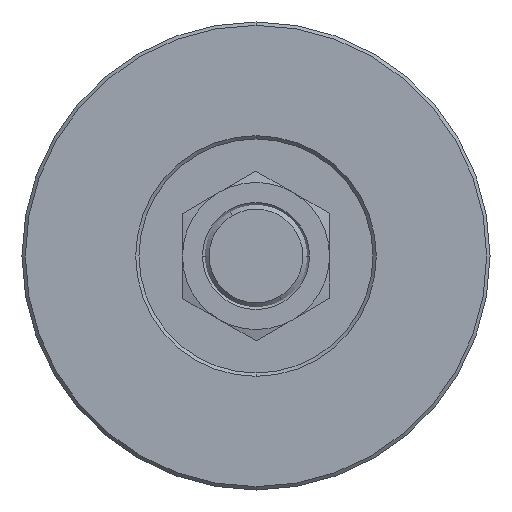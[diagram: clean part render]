
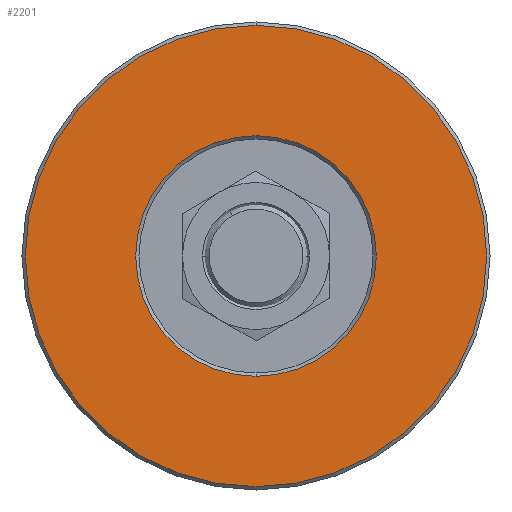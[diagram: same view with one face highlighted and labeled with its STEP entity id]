
A CAD part, front view. The second image highlights one B-rep face of the part: STEP entity #2201.
In plain terms, the highlighted planar face has unit normal (0, -1, 0).
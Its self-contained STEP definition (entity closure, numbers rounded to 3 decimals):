
#59 = CARTESIAN_POINT ( 'NONE',  ( 0., 0., 34.5 ) ) ;
#520 = AXIS2_PLACEMENT_3D ( 'NONE', #2167, #1387, #8156 ) ;
#687 = DIRECTION ( 'NONE',  ( 0., -1., 0. ) ) ;
#713 = CARTESIAN_POINT ( 'NONE',  ( 0., 0., 0. ) ) ;
#735 = AXIS2_PLACEMENT_3D ( 'NONE', #3438, #6131, #3411 ) ;
#1387 = DIRECTION ( 'NONE',  ( 0., -1., 0. ) ) ;
#1524 = VERTEX_POINT ( 'NONE', #2836 ) ;
#1557 = CARTESIAN_POINT ( 'NONE',  ( 17.5, 0., 0. ) ) ;
#1633 = VERTEX_POINT ( 'NONE', #4185 ) ;
#1755 = CIRCLE ( 'NONE', #3682, 18. ) ;
#1860 = FACE_OUTER_BOUND ( 'NONE', #3874, .T. ) ;
#1912 = EDGE_CURVE ( 'NONE', #5384, #1524, #7635, .T. ) ;
#2167 = CARTESIAN_POINT ( 'NONE',  ( 0., 0., 0. ) ) ;
#2201 = ADVANCED_FACE ( 'NONE', ( #1860, #7016 ), #3463, .T. ) ;
#2747 = EDGE_CURVE ( 'NONE', #7837, #1633, #8154, .T. ) ;
#2836 = CARTESIAN_POINT ( 'NONE',  ( 0., 0., -34.5 ) ) ;
#3016 = EDGE_CURVE ( 'NONE', #1633, #7837, #1755, .T. ) ;
#3101 = AXIS2_PLACEMENT_3D ( 'NONE', #1557, #6860, #3495 ) ;
#3411 = DIRECTION ( 'NONE',  ( 0., 0., -1. ) ) ;
#3429 = DIRECTION ( 'NONE',  ( 0., 1., 0. ) ) ;
#3438 = CARTESIAN_POINT ( 'NONE',  ( 0., 0., 0. ) ) ;
#3463 = PLANE ( 'NONE',  #3101 ) ;
#3495 = DIRECTION ( 'NONE',  ( 0., 0., -1. ) ) ;
#3682 = AXIS2_PLACEMENT_3D ( 'NONE', #6890, #3429, #8111 ) ;
#3769 = ORIENTED_EDGE ( 'NONE', *, *, #2747, .T. ) ;
#3874 = EDGE_LOOP ( 'NONE', ( #8444, #4030 ) ) ;
#4030 = ORIENTED_EDGE ( 'NONE', *, *, #7399, .T. ) ;
#4185 = CARTESIAN_POINT ( 'NONE',  ( 0., 0., 18. ) ) ;
#5200 = CIRCLE ( 'NONE', #520, 34.5 ) ;
#5384 = VERTEX_POINT ( 'NONE', #59 ) ;
#5568 = AXIS2_PLACEMENT_3D ( 'NONE', #713, #687, #8089 ) ;
#6131 = DIRECTION ( 'NONE',  ( 0., 1., 0. ) ) ;
#6231 = ORIENTED_EDGE ( 'NONE', *, *, #3016, .T. ) ;
#6635 = CARTESIAN_POINT ( 'NONE',  ( 0., 0., -18. ) ) ;
#6860 = DIRECTION ( 'NONE',  ( 0., -1., 0. ) ) ;
#6890 = CARTESIAN_POINT ( 'NONE',  ( 0., 0., 0. ) ) ;
#7016 = FACE_BOUND ( 'NONE', #8589, .T. ) ;
#7399 = EDGE_CURVE ( 'NONE', #1524, #5384, #5200, .T. ) ;
#7635 = CIRCLE ( 'NONE', #5568, 34.5 ) ;
#7837 = VERTEX_POINT ( 'NONE', #6635 ) ;
#8089 = DIRECTION ( 'NONE',  ( 0., 0., -1. ) ) ;
#8111 = DIRECTION ( 'NONE',  ( 0., 0., -1. ) ) ;
#8154 = CIRCLE ( 'NONE', #735, 18. ) ;
#8156 = DIRECTION ( 'NONE',  ( 0., 0., -1. ) ) ;
#8444 = ORIENTED_EDGE ( 'NONE', *, *, #1912, .T. ) ;
#8589 = EDGE_LOOP ( 'NONE', ( #3769, #6231 ) ) ;
